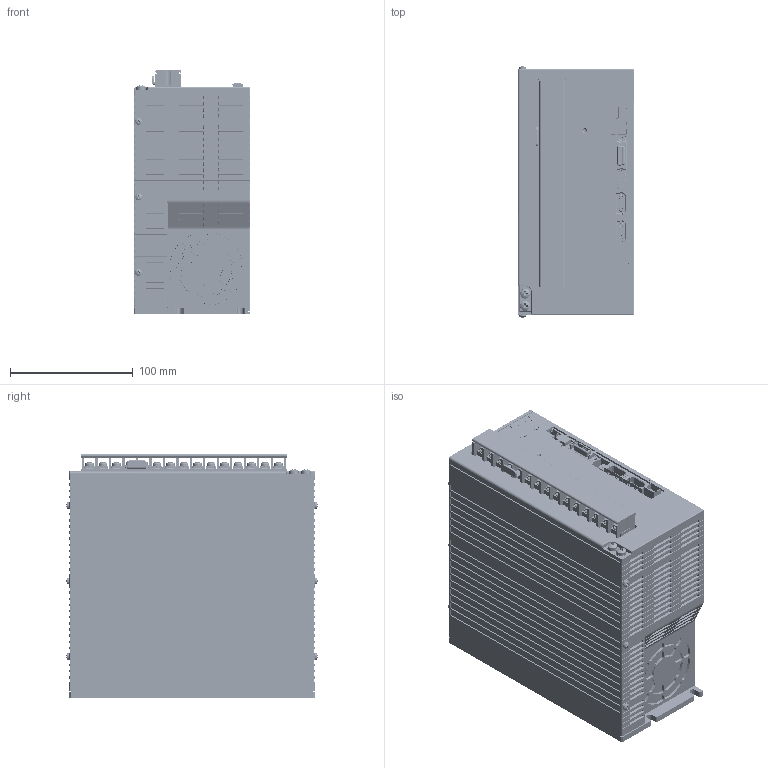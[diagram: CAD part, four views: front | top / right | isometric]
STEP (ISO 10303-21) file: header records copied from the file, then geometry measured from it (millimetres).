
FILE_DESCRIPTION (( 'STEP AP214' ), '1' );
FILE_NAME ('NCR-HB_Series(152-222)#SE-75231A.STEP', '2023-12-28T01:11:38', ( '' ), ( '' ), 'SwSTEP 2.0', 'SolidWorks 2023', '' );
FILE_SCHEMA (( 'AUTOMOTIVE_DESIGN' ));
Products named in the file (1): NCR-HB_Series(152-222)#SE-75231A
Bounding box: 95 x 204.71 x 199.2 mm (x, y, z)
Volume: 3370376.9 mm3; surface area: 220259.1 mm2
Topology: 2 solids, 35 shells, 10643 faces, 30700 edges, 20100 vertices
Faces by surface type: plane 7153, cylinder 2079, bspline 853, cone 405, torus 106, sphere 47
Entity records: 380569 total; most frequent: CARTESIAN_POINT 111998, ORIENTED_EDGE 61352, DIRECTION 48907, EDGE_CURVE 30676, LINE 22173, VECTOR 22173, VERTEX_POINT 20100, AXIS2_PLACEMENT_3D 13367
